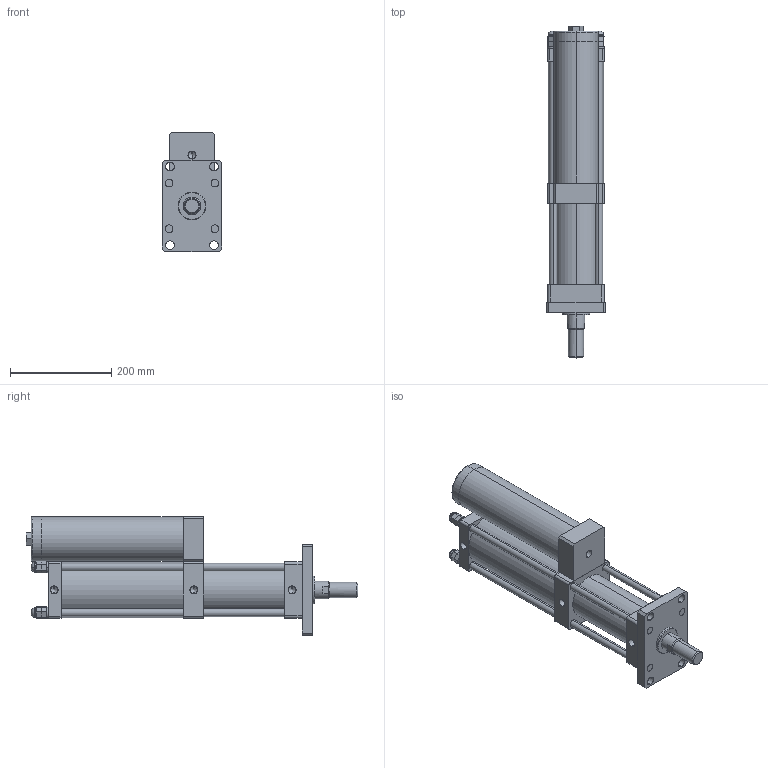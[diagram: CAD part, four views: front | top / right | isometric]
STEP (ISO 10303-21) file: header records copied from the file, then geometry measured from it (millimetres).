
FILE_DESCRIPTION (( 'STEP AP203' ), '1' );
FILE_NAME ('MPT-80-100-15-5T.STEP', '2016-03-11T01:38:16', ( 'WIN' ), ( '' ), 'SwSTEP 2.0', 'SolidWorks 2014', '' );
FILE_SCHEMA (( 'CONFIG_CONTROL_DESIGN' ));
Length unit declared in the file: millimetre
Products named in the file (1): MPT-80-100-15-5T
Bounding box: 118 x 655 x 235 mm (x, y, z)
Volume: 6000252.8 mm3; surface area: 681534.2 mm2
Topology: 20 solids, 20 shells, 391 faces, 954 edges, 554 vertices
Faces by surface type: plane 184, cylinder 84, torus 48, bspline 48, cone 27
Entity records: 12532 total; most frequent: CARTESIAN_POINT 3676, DIRECTION 1861, ORIENTED_EDGE 1776, EDGE_CURVE 888, AXIS2_PLACEMENT_3D 683, VERTEX_POINT 554, VECTOR 495, LINE 495
